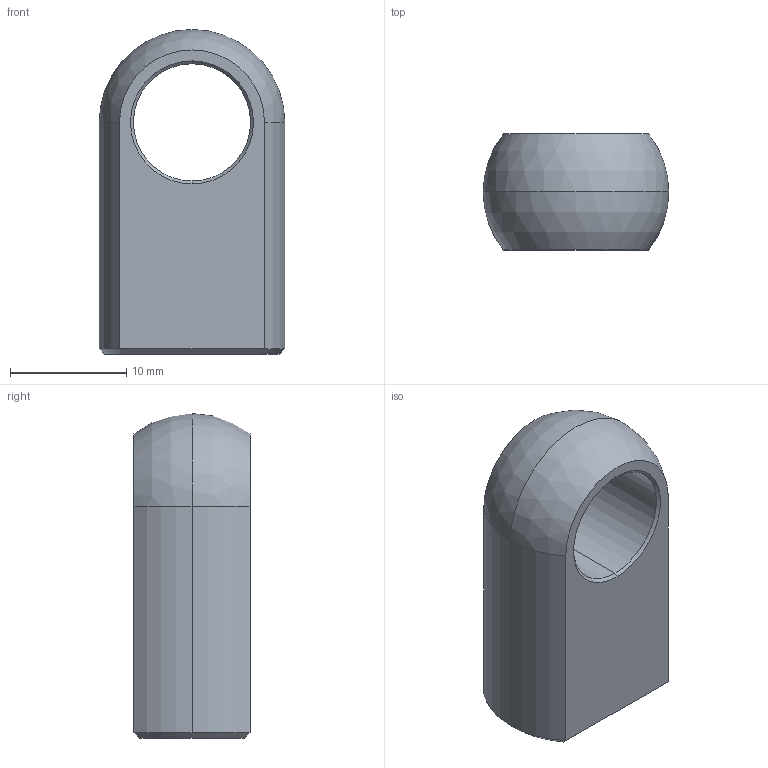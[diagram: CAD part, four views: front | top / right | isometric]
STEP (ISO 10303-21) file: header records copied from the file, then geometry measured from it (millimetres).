
FILE_DESCRIPTION (( 'STEP AP214' ), '1' );
FILE_NAME ('18.08A1L2010.1.STEP', '2017-11-09T11:51:20', ( '' ), ( '' ), 'SwSTEP 2.0', 'SolidWorks 2016', '' );
FILE_SCHEMA (( 'AUTOMOTIVE_DESIGN' ));
Length unit declared in the file: millimetre
Products named in the file (1): 18.08A1L2010.1
Bounding box: 16 x 10 x 28 mm (x, y, z)
Volume: 2650.9 mm3; surface area: 1801 mm2
Topology: 1 solids, 1 shells, 25 faces, 57 edges, 33 vertices
Faces by surface type: cone 11, cylinder 7, plane 5, sphere 2
Entity records: 732 total; most frequent: DIRECTION 132, CARTESIAN_POINT 126, ORIENTED_EDGE 110, EDGE_CURVE 55, AXIS2_PLACEMENT_3D 55, VERTEX_POINT 33, CIRCLE 29, EDGE_LOOP 28
